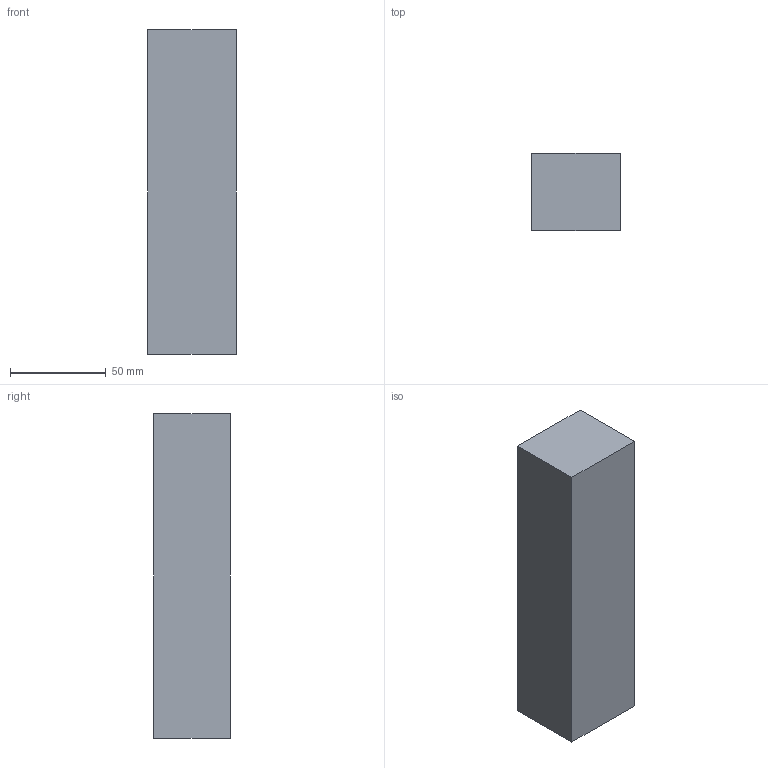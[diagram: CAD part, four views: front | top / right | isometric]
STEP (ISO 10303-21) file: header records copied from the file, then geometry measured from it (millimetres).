
FILE_DESCRIPTION(/* description */ ('VariCAD 2010-2.03 AP-203'),/* implementation_level */ '2;1');
FILE_NAME(/* name */ '0353-62-034',/* time_stamp */ '2010-07-25T15:20:31-06:00',/* author */ (''),/* organization */ (''),/* preprocessor_version */ 'ST-DEVELOPER v12',/* originating_system */ 'VariCAD 2010-2.03; kernel version (20100102)',/* authorisation */ '');
FILE_SCHEMA (('CONFIG_CONTROL_DESIGN'));
Length unit declared in the file: millimetre
Products named in the file (1): Part
Bounding box: 46 x 40 x 169 mm (x, y, z)
Volume: 310960 mm3; surface area: 32748 mm2
Topology: 1 solids, 1 shells, 6 faces, 12 edges, 8 vertices
Faces by surface type: plane 6
Entity records: 202 total; most frequent: DIRECTION 28, CARTESIAN_POINT 28, ORIENTED_EDGE 24, EDGE_CURVE 12, LINE 12, VECTOR 12, VERTEX_POINT 8, AXIS2_PLACEMENT_3D 8
